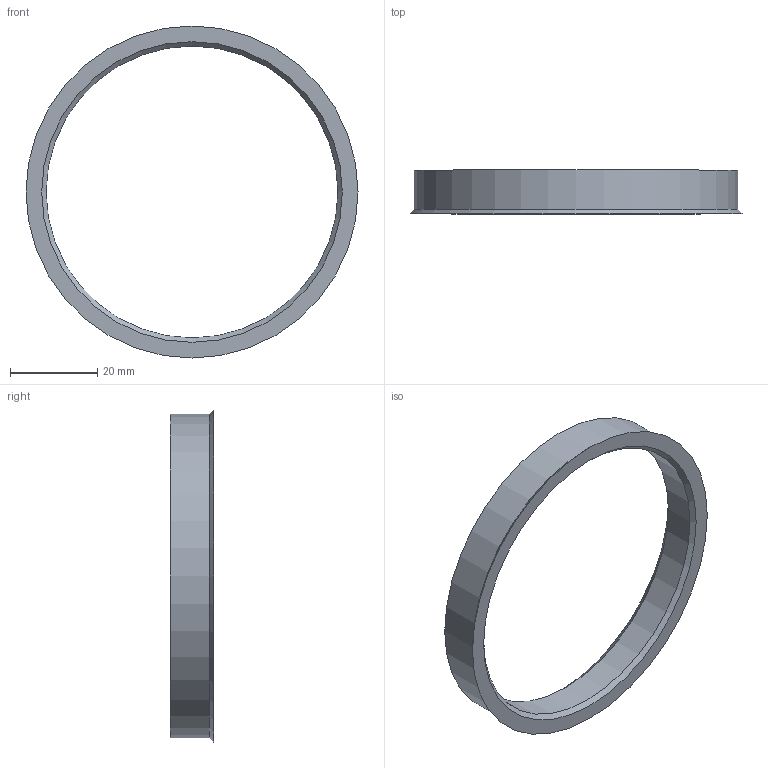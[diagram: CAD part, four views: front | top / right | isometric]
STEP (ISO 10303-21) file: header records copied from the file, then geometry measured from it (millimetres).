
FILE_DESCRIPTION(/* description */ (''),/* implementation_level */ '2;1');
FILE_NAME(/* name */ 'G:\CAD Library\Team Tasks\DIPP\11th Intake\Bradley Coles\Design Drafting\Random\Hub Rings\ipt\HubRing_74.1-66.9.stp',/* time_stamp */ '2025-07-22T13:43:36+08:00',/* author */ ('BCOLES'),/* organization */ (''),/* preprocessor_version */ 'ST-DEVELOPER v18.1',/* originating_system */ 'Autodesk Inventor 2022',/* authorisation */ '');
FILE_SCHEMA (('AUTOMOTIVE_DESIGN { 1 0 10303 214 3 1 1 }'));
Length unit declared in the file: millimetre
Products named in the file (1): HubRing_74.1-66.9
Bounding box: 76.1 x 10 x 76.1 mm (x, y, z)
Volume: 7555.9 mm3; surface area: 5998.3 mm2
Topology: 1 solids, 1 shells, 7 faces, 13 edges, 8 vertices
Faces by surface type: cone 3, cylinder 2, plane 2
Full cylindrical faces by diameter (mm): 66.9 x1, 74.1 x1
Entity records: 226 total; most frequent: DIRECTION 37, CARTESIAN_POINT 29, ORIENTED_EDGE 26, AXIS2_PLACEMENT_3D 16, EDGE_CURVE 13, EDGE_LOOP 9, CIRCLE 8, VERTEX_POINT 8
